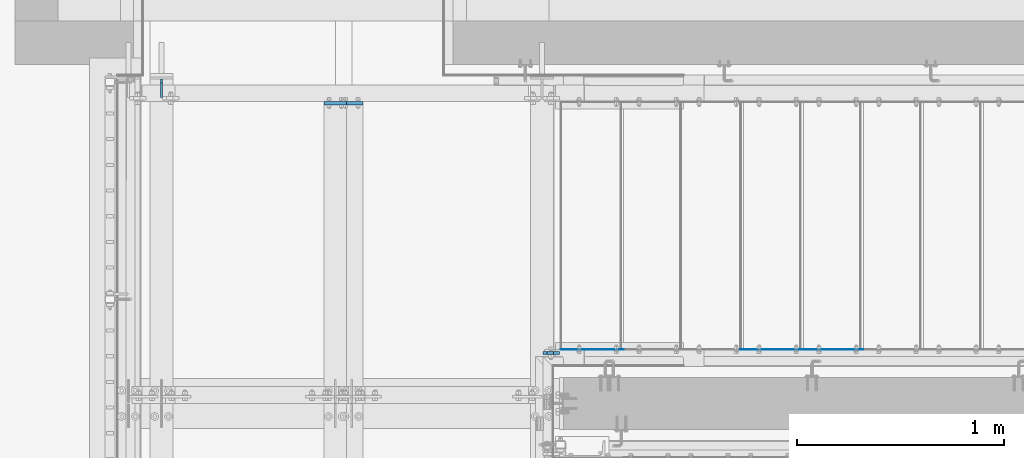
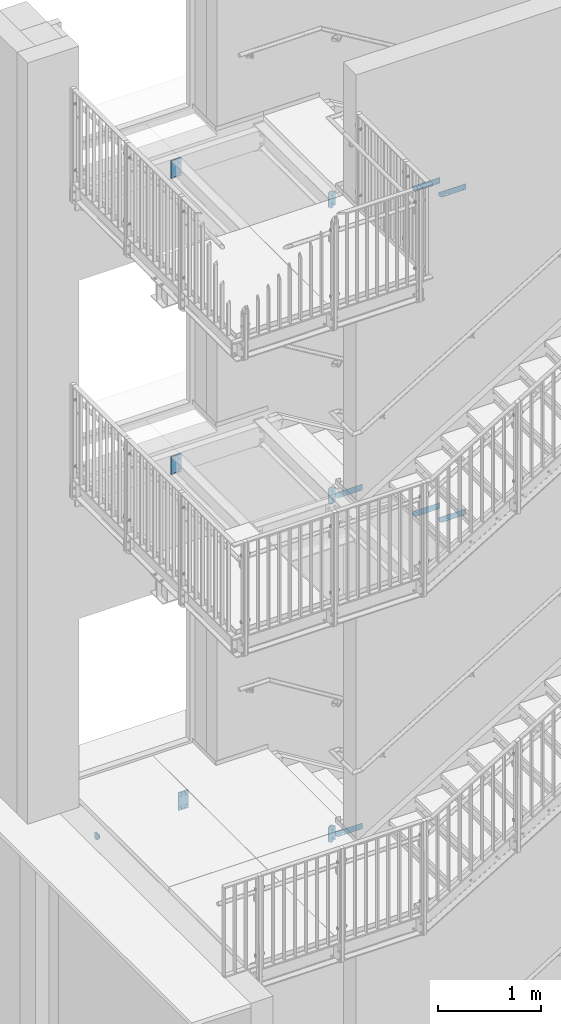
# One storey, part 56 of 410: 13 plates, 56 openings.
"""IFC2X3 building model written with IfcOpenShell, lengths in millimetres."""

from ifc_helpers import new_model, entity, si_unit, converted_unit, point, frame, frame_2d, origin, origin_with_axes, origin_2d_with_axis, place, context, project, spatial, polyline, circle_curve, line_curve, trimmed, segment, composite_curve, circle, outline, extrude, material, layer, layer_set, element, save


model = new_model("IFC2X3")

# Units and contexts
model_context = context("Model", 3, precision=1e-09, world=origin_with_axes())
ifc_project = project(units=[si_unit("LENGTHUNIT", "METRE", prefix="MILLI"), si_unit("AREAUNIT", "SQUARE_METRE"), si_unit("VOLUMEUNIT", "CUBIC_METRE"), converted_unit("PLANEANGLEUNIT", "DEGREE", entity("IfcPlaneAngleMeasure", 0.01745329), si_unit("PLANEANGLEUNIT", "RADIAN"), dimensions=[0, 0, 0, 0, 0, 0, 0])], contexts=[model_context])

# Site, building, storey
site_placement = place(None, origin_with_axes())
site = spatial("IfcSite", under=ifc_project, at=site_placement, Name="mKR Teilneubau & Sanierung BA1 - Ostfildern", CompositionType="ELEMENT")
building_placement = place(site_placement, origin_with_axes())
building = spatial("IfcBuilding", under=site, at=building_placement, Name="Struktur 1", CompositionType="ELEMENT")
storey_placement = place(building_placement, origin_with_axes())
storey = spatial("IfcBuildingStorey", under=building, at=storey_placement, Name="Default Storey", CompositionType="ELEMENT", Elevation=0.0)

# Plate, openings
ifc_material = material(Name="S235JR")
ifc_layer_1 = layer(ifc_material, 3.0)
ifc_layer_set_1 = layer_set([ifc_layer_1], Name="S235JR")
plate_1_placement = place(None, frame((-545.0, 17239.999999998, 7150.0), z_axis=(0.0, 1.0, 0.0), x_axis=(0.0, 0.0, -1.0)))
plate_1 = element("IfcPlate", 1, at=plate_1_placement, inside=storey, material=ifc_layer_set_1, Name="Grate_Step#2", ObjectType="Grate_Step#2", context=model_context, shape_type="SweptSolid", body=[
    extrude(outline(polyline([(0.0, 0.0), (70.0, 0.0), (70.0, 275.0), (40.0, 305.0), (0.0, 305.0), (0.0, 0.0)])), origin_with_axes(), (0.0, 0.0, 1.0), 3.0),
])
opening_1_placement = place(plate_1_placement, frame((55.0, 35.0, 3.5), z_axis=(0.0, 0.0, -1.0), x_axis=(0.0, 1.0, 0.0)))
element("IfcOpeningElement", 2, at=opening_1_placement, cuts=plate_1, ObjectType="Opening", context=model_context, shape_type="SweptSolid", body=[
    extrude(circle(Radius=7.001, at=origin_2d_with_axis()), origin(), (0.0, 0.0, 1.0), 4.0),
])
opening_2_placement = place(plate_1_placement, frame((55.0, 215.0, 3.5), z_axis=(0.0, 0.0, -1.0), x_axis=(0.0, 1.0, 0.0)))
element("IfcOpeningElement", 3, at=opening_2_placement, cuts=plate_1, ObjectType="Opening", context=model_context, shape_type="SweptSolid", body=[
    extrude(outline(composite_curve([segment(trimmed(line_curve((-9.5, -7.001), (1.0, 0.0), 19.0), [point((-9.5, -7.001))], [point((9.5, -7.001))], True, "CARTESIAN"), True, "CONTINUOUS"), segment(trimmed(circle_curve(frame_2d((9.5, 0.0), x_axis=(1.0, 0.0)), 7.001), [point((9.5, -7.001))], [point((9.5, 7.001))], True, "CARTESIAN"), True, "CONTINUOUS"), segment(trimmed(line_curve((9.5, 7.001), (-1.0, 0.0), 19.0), [point((9.5, 7.001))], [point((-9.5, 7.001))], True, "CARTESIAN"), True, "CONTINUOUS"), segment(trimmed(circle_curve(frame_2d((-9.5, 0.0), x_axis=(1.0, 0.0)), 7.001), [point((-9.5, 7.001))], [point((-9.5, -7.001))], True, "CARTESIAN"), True, "CONTINUOUS")], self_intersect=False)), origin(), (0.0, 0.0, 1.0), 4.0),
])

plate_2_placement = place(None, frame((-255.0, 17239.999999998, 6975.0), z_axis=(0.0, 1.0, 0.0), x_axis=(0.0, 0.0, -1.0)))
plate_2 = element("IfcPlate", 4, at=plate_2_placement, inside=storey, material=ifc_layer_set_1, Name="Grate_Step#2", ObjectType="Grate_Step#2", context=model_context, shape_type="SweptSolid", body=[
    extrude(outline(polyline([(0.0, 0.0), (70.0, 0.0), (70.0, 275.0), (40.0, 305.0), (0.0, 305.0), (0.0, 0.0)])), origin_with_axes(), (0.0, 0.0, 1.0), 3.0),
])
opening_3_placement = place(plate_2_placement, frame((55.0, 215.0, 3.5), z_axis=(0.0, 0.0, -1.0), x_axis=(0.0, 1.0, 0.0)))
element("IfcOpeningElement", 5, at=opening_3_placement, cuts=plate_2, ObjectType="Opening", context=model_context, shape_type="SweptSolid", body=[
    extrude(outline(composite_curve([segment(trimmed(line_curve((-9.5, -7.001), (1.0, 0.0), 19.0), [point((-9.5, -7.001))], [point((9.5, -7.001))], True, "CARTESIAN"), True, "CONTINUOUS"), segment(trimmed(circle_curve(frame_2d((9.5, 0.0), x_axis=(1.0, 0.0)), 7.001), [point((9.5, -7.001))], [point((9.5, 7.001))], True, "CARTESIAN"), True, "CONTINUOUS"), segment(trimmed(line_curve((9.5, 7.001), (-1.0, 0.0), 19.0), [point((9.5, 7.001))], [point((-9.5, 7.001))], True, "CARTESIAN"), True, "CONTINUOUS"), segment(trimmed(circle_curve(frame_2d((-9.5, 0.0), x_axis=(1.0, 0.0)), 7.001), [point((-9.5, 7.001))], [point((-9.5, -7.001))], True, "CARTESIAN"), True, "CONTINUOUS")], self_intersect=False)), origin(), (0.0, 0.0, 1.0), 4.0),
])
opening_4_placement = place(plate_2_placement, frame((55.0, 35.0, 3.5), z_axis=(0.0, 0.0, -1.0), x_axis=(0.0, 1.0, 0.0)))
element("IfcOpeningElement", 6, at=opening_4_placement, cuts=plate_2, ObjectType="Opening", context=model_context, shape_type="SweptSolid", body=[
    extrude(circle(Radius=7.001, at=origin_2d_with_axis()), origin(), (0.0, 0.0, 1.0), 4.0),
])

plate_3_placement = place(None, frame((-255.0, 17239.999999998, 3130.434783), z_axis=(0.0, 1.0, 0.0), x_axis=(0.0, 0.0, -1.0)))
plate_3 = element("IfcPlate", 7, at=plate_3_placement, inside=storey, material=ifc_layer_set_1, Name="Grate_Step#2", ObjectType="Grate_Step#2", context=model_context, shape_type="SweptSolid", body=[
    extrude(outline(polyline([(0.0, 0.0), (70.0, 0.0), (70.0, 275.0), (40.0, 305.0), (0.0, 305.0), (0.0, 0.0)])), origin_with_axes(), (0.0, 0.0, 1.0), 3.0),
])
opening_5_placement = place(plate_3_placement, frame((55.0, 35.0, 3.5), z_axis=(0.0, 0.0, -1.0), x_axis=(0.0, 1.0, 0.0)))
element("IfcOpeningElement", 8, at=opening_5_placement, cuts=plate_3, ObjectType="Opening", context=model_context, shape_type="SweptSolid", body=[
    extrude(circle(Radius=7.001, at=origin_2d_with_axis()), origin(), (0.0, 0.0, 1.0), 4.0),
])
opening_6_placement = place(plate_3_placement, frame((55.0, 215.0, 3.5), z_axis=(0.0, 0.0, -1.0), x_axis=(0.0, 1.0, 0.0)))
element("IfcOpeningElement", 9, at=opening_6_placement, cuts=plate_3, ObjectType="Opening", context=model_context, shape_type="SweptSolid", body=[
    extrude(outline(composite_curve([segment(trimmed(line_curve((-9.5, -7.001), (1.0, 0.0), 19.0), [point((-9.5, -7.001))], [point((9.5, -7.001))], True, "CARTESIAN"), True, "CONTINUOUS"), segment(trimmed(circle_curve(frame_2d((9.5, 0.0), x_axis=(1.0, 0.0)), 7.001), [point((9.5, -7.001))], [point((9.5, 7.001))], True, "CARTESIAN"), True, "CONTINUOUS"), segment(trimmed(line_curve((9.5, 7.001), (-1.0, 0.0), 19.0), [point((9.5, 7.001))], [point((-9.5, 7.001))], True, "CARTESIAN"), True, "CONTINUOUS"), segment(trimmed(circle_curve(frame_2d((-9.5, 0.0), x_axis=(1.0, 0.0)), 7.001), [point((-9.5, 7.001))], [point((-9.5, -7.001))], True, "CARTESIAN"), True, "CONTINUOUS")], self_intersect=False)), origin(), (0.0, 0.0, 1.0), 4.0),
])

plate_4_placement = place(None, frame((-545.0, 17239.999999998, 3304.3478265), z_axis=(0.0, 1.0, 0.0), x_axis=(0.0, 0.0, -1.0)))
plate_4 = element("IfcPlate", 10, at=plate_4_placement, inside=storey, material=ifc_layer_set_1, Name="Grate_Step#2", ObjectType="Grate_Step#2", context=model_context, shape_type="SweptSolid", body=[
    extrude(outline(polyline([(0.0, 0.0), (70.0, 0.0), (70.0, 275.0), (40.0, 305.0), (0.0, 305.0), (0.0, 0.0)])), origin_with_axes(), (0.0, 0.0, 1.0), 3.0),
])
opening_7_placement = place(plate_4_placement, frame((55.0, 35.0, 3.5), z_axis=(0.0, 0.0, -1.0), x_axis=(0.0, 1.0, 0.0)))
element("IfcOpeningElement", 11, at=opening_7_placement, cuts=plate_4, ObjectType="Opening", context=model_context, shape_type="SweptSolid", body=[
    extrude(circle(Radius=7.001, at=origin_2d_with_axis()), origin(), (0.0, 0.0, 1.0), 4.0),
])
opening_8_placement = place(plate_4_placement, frame((55.0, 215.0, 3.5), z_axis=(0.0, 0.0, -1.0), x_axis=(0.0, 1.0, 0.0)))
element("IfcOpeningElement", 12, at=opening_8_placement, cuts=plate_4, ObjectType="Opening", context=model_context, shape_type="SweptSolid", body=[
    extrude(outline(composite_curve([segment(trimmed(line_curve((-9.5, -7.001), (1.0, 0.0), 19.0), [point((-9.5, -7.001))], [point((9.5, -7.001))], True, "CARTESIAN"), True, "CONTINUOUS"), segment(trimmed(circle_curve(frame_2d((9.5, 0.0), x_axis=(1.0, 0.0)), 7.001), [point((9.5, -7.001))], [point((9.5, 7.001))], True, "CARTESIAN"), True, "CONTINUOUS"), segment(trimmed(line_curve((9.5, 7.001), (-1.0, 0.0), 19.0), [point((9.5, 7.001))], [point((-9.5, 7.001))], True, "CARTESIAN"), True, "CONTINUOUS"), segment(trimmed(circle_curve(frame_2d((-9.5, 0.0), x_axis=(1.0, 0.0)), 7.001), [point((-9.5, 7.001))], [point((-9.5, -7.001))], True, "CARTESIAN"), True, "CONTINUOUS")], self_intersect=False)), origin(), (0.0, 0.0, 1.0), 4.0),
])

plate_5_placement = place(None, frame((-1415.0, 17239.999999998, 3826.086957), z_axis=(0.0, 1.0, 0.0), x_axis=(0.0, 0.0, -1.0)))
plate_5 = element("IfcPlate", 13, at=plate_5_placement, inside=storey, material=ifc_layer_set_1, Name="Grate_Step#2", ObjectType="Grate_Step#2", context=model_context, shape_type="SweptSolid", body=[
    extrude(outline(polyline([(0.0, 0.0), (70.0, 0.0), (70.0, 275.0), (40.0, 305.0), (0.0, 305.0), (0.0, 0.0)])), origin_with_axes(), (0.0, 0.0, 1.0), 3.0),
])
opening_9_placement = place(plate_5_placement, frame((55.0, 215.0, 3.5), z_axis=(0.0, 0.0, -1.0), x_axis=(0.0, 1.0, 0.0)))
element("IfcOpeningElement", 14, at=opening_9_placement, cuts=plate_5, ObjectType="Opening", context=model_context, shape_type="SweptSolid", body=[
    extrude(outline(composite_curve([segment(trimmed(line_curve((-9.5, -7.001), (1.0, 0.0), 19.0), [point((-9.5, -7.001))], [point((9.5, -7.001))], True, "CARTESIAN"), True, "CONTINUOUS"), segment(trimmed(circle_curve(frame_2d((9.5, 0.0), x_axis=(1.0, 0.0)), 7.001), [point((9.5, -7.001))], [point((9.5, 7.001))], True, "CARTESIAN"), True, "CONTINUOUS"), segment(trimmed(line_curve((9.5, 7.001), (-1.0, 0.0), 19.0), [point((9.5, 7.001))], [point((-9.5, 7.001))], True, "CARTESIAN"), True, "CONTINUOUS"), segment(trimmed(circle_curve(frame_2d((-9.5, 0.0), x_axis=(1.0, 0.0)), 7.001), [point((-9.5, 7.001))], [point((-9.5, -7.001))], True, "CARTESIAN"), True, "CONTINUOUS")], self_intersect=False)), origin(), (0.0, 0.0, 1.0), 4.0),
])
opening_10_placement = place(plate_5_placement, frame((55.0, 35.0, 3.5), z_axis=(0.0, 0.0, -1.0), x_axis=(0.0, 1.0, 0.0)))
element("IfcOpeningElement", 15, at=opening_10_placement, cuts=plate_5, ObjectType="Opening", context=model_context, shape_type="SweptSolid", body=[
    extrude(circle(Radius=7.001, at=origin_2d_with_axis()), origin(), (0.0, 0.0, 1.0), 4.0),
])

plate_6_placement = place(None, frame((-1415.0, 17239.999999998, -178.8), z_axis=(0.0, 1.0, 0.0), x_axis=(0.0, 0.0, -1.0)))
plate_6 = element("IfcPlate", 16, at=plate_6_placement, inside=storey, material=ifc_layer_set_1, Name="Grate_Step#2", ObjectType="Grate_Step#2", context=model_context, shape_type="SweptSolid", body=[
    extrude(outline(polyline([(0.0, 0.0), (70.0, 0.0), (70.0, 275.0), (40.0, 305.0), (0.0, 305.0), (0.0, 0.0)])), origin_with_axes(), (0.0, 0.0, 1.0), 3.0),
])
opening_11_placement = place(plate_6_placement, frame((55.0, 215.0, 3.5), z_axis=(0.0, 0.0, -1.0), x_axis=(0.0, 1.0, 0.0)))
element("IfcOpeningElement", 17, at=opening_11_placement, cuts=plate_6, ObjectType="Opening", context=model_context, shape_type="SweptSolid", body=[
    extrude(outline(composite_curve([segment(trimmed(line_curve((-9.5, -7.001), (1.0, 0.0), 19.0), [point((-9.5, -7.001))], [point((9.5, -7.001))], True, "CARTESIAN"), True, "CONTINUOUS"), segment(trimmed(circle_curve(frame_2d((9.5, 0.0), x_axis=(1.0, 0.0)), 7.001), [point((9.5, -7.001))], [point((9.5, 7.001))], True, "CARTESIAN"), True, "CONTINUOUS"), segment(trimmed(line_curve((9.5, 7.001), (-1.0, 0.0), 19.0), [point((9.5, 7.001))], [point((-9.5, 7.001))], True, "CARTESIAN"), True, "CONTINUOUS"), segment(trimmed(circle_curve(frame_2d((-9.5, 0.0), x_axis=(1.0, 0.0)), 7.001), [point((-9.5, 7.001))], [point((-9.5, -7.001))], True, "CARTESIAN"), True, "CONTINUOUS")], self_intersect=False)), origin(), (0.0, 0.0, 1.0), 4.0),
])
opening_12_placement = place(plate_6_placement, frame((55.0, 35.0, 3.5), z_axis=(0.0, 0.0, -1.0), x_axis=(0.0, 1.0, 0.0)))
element("IfcOpeningElement", 18, at=opening_12_placement, cuts=plate_6, ObjectType="Opening", context=model_context, shape_type="SweptSolid", body=[
    extrude(circle(Radius=7.001, at=origin_2d_with_axis()), origin(), (0.0, 0.0, 1.0), 4.0),
])

ifc_layer_2 = layer(ifc_material, 15.0)
ifc_layer_set_2 = layer_set([ifc_layer_2], Name="S235JR")
plate_7_placement = place(None, frame((-1806.0485317, 17230.999999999, 3929.300000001), z_axis=(0.0, 1.0, 0.0), x_axis=(1.0, 0.0, 0.0)))
plate_7 = element("IfcPlate", 19, at=plate_7_placement, inside=storey, material=ifc_layer_set_2, Name="LugPlate#1", ObjectType="LugPlate#1", context=model_context, shape_type="SweptSolid", body=[
    extrude(outline(polyline([(0.0, 0.0), (80.0, 0.0), (80.0, 198.6), (0.0, 198.6), (0.0, 0.0)])), origin_with_axes(), (0.0, 0.0, -1.0), 15.0),
])
opening_13_placement = place(plate_7_placement, frame((0.0, 0.0, 0.01), z_axis=(0.0, 0.0, 1.0), x_axis=(1.0, 0.0, 0.0)))
element("IfcOpeningElement", 20, at=opening_13_placement, cuts=plate_7, ObjectType="Opening", context=model_context, shape_type="SweptSolid", body=[
    extrude(outline(polyline([(0.0, 0.0), (20.0, 0.0), (0.0, 20.0), (0.0, 0.0)])), origin(), (0.0, 0.0, -1.0), 15.02),
])
opening_14_placement = place(plate_7_placement, frame((0.0, 198.6, 0.01), z_axis=(0.0, 0.0, 1.0), x_axis=(0.0, -1.0, 0.0)))
element("IfcOpeningElement", 21, at=opening_14_placement, cuts=plate_7, ObjectType="Opening", context=model_context, shape_type="SweptSolid", body=[
    extrude(outline(polyline([(0.0, 0.0), (20.0, 0.0), (0.0, 20.0), (0.0, 0.0)])), origin(), (0.0, 0.0, -1.0), 15.02),
])
opening_15_placement = place(plate_7_placement, frame((99.857709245, 209.301, -15.1), z_axis=(0.0, 0.0, -1.0), x_axis=(0.0, -1.0, 0.0)))
element("IfcOpeningElement", 22, at=opening_15_placement, cuts=plate_7, ObjectType="Opening", context=model_context, shape_type="SweptSolid", body=[
    extrude(outline(polyline([(0.0, 0.0), (30.002, 0.0), (30.002, 48.808709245), (0.0, 48.808709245), (0.0, 0.0)])), origin(), (0.0, 0.0, -1.0), 15.2),
])
opening_16_placement = place(plate_7_placement, frame((95.314579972, 19.301, -15.1), z_axis=(0.0, 0.0, -1.0), x_axis=(0.0, -1.0, 0.0)))
element("IfcOpeningElement", 23, at=opening_16_placement, cuts=plate_7, ObjectType="Opening", context=model_context, shape_type="SweptSolid", body=[
    extrude(outline(polyline([(0.0, 0.0), (30.001999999, 0.0), (30.001999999, 44.265579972), (0.0, 44.265579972), (0.0, 0.0)])), origin(), (0.0, 0.0, -1.0), 15.2),
])
opening_17_placement = place(plate_7_placement, frame((40.0, 49.300000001, -15.5), z_axis=(0.0, 0.0, 1.0), x_axis=(1.0, 0.0, 0.0)))
element("IfcOpeningElement", 24, at=opening_17_placement, cuts=plate_7, ObjectType="Opening", context=model_context, shape_type="SweptSolid", body=[
    extrude(circle(Radius=9.001, at=frame_2d((0.0, 100.0), x_axis=(1.0, 0.0))), origin(), (0.0, 0.0, 1.0), 16.0),
])
opening_18_placement = place(plate_7_placement, frame((40.0, 49.300000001, -15.5), z_axis=(0.0, 0.0, 1.0), x_axis=(1.0, 0.0, 0.0)))
element("IfcOpeningElement", 25, at=opening_18_placement, cuts=plate_7, ObjectType="Opening", context=model_context, shape_type="SweptSolid", body=[
    extrude(circle(Radius=9.001, at=origin_2d_with_axis()), origin(), (0.0, 0.0, 1.0), 16.0),
])

plate_8_placement = place(None, frame((-1806.0485317, 17230.999999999, -70.699999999), z_axis=(0.0, 1.0, 0.0), x_axis=(1.0, 0.0, 0.0)))
plate_8 = element("IfcPlate", 26, at=plate_8_placement, inside=storey, material=ifc_layer_set_2, Name="LugPlate#1", ObjectType="LugPlate#1", context=model_context, shape_type="SweptSolid", body=[
    extrude(outline(polyline([(0.0, 0.0), (80.0, 0.0), (80.0, 198.6), (0.0, 198.6), (0.0, 0.0)])), origin_with_axes(), (0.0, 0.0, -1.0), 15.0),
])
opening_19_placement = place(plate_8_placement, frame((0.0, 0.0, 0.01), z_axis=(0.0, 0.0, 1.0), x_axis=(1.0, 0.0, 0.0)))
element("IfcOpeningElement", 27, at=opening_19_placement, cuts=plate_8, ObjectType="Opening", context=model_context, shape_type="SweptSolid", body=[
    extrude(outline(polyline([(0.0, 0.0), (20.0, 0.0), (0.0, 20.0), (0.0, 0.0)])), origin(), (0.0, 0.0, -1.0), 15.02),
])
opening_20_placement = place(plate_8_placement, frame((0.0, 198.6, 0.01), z_axis=(0.0, 0.0, 1.0), x_axis=(0.0, -1.0, 0.0)))
element("IfcOpeningElement", 28, at=opening_20_placement, cuts=plate_8, ObjectType="Opening", context=model_context, shape_type="SweptSolid", body=[
    extrude(outline(polyline([(0.0, 0.0), (20.0, 0.0), (0.0, 20.0), (0.0, 0.0)])), origin(), (0.0, 0.0, -1.0), 15.02),
])
opening_21_placement = place(plate_8_placement, frame((99.857709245, 209.301, -15.1), z_axis=(0.0, 0.0, -1.0), x_axis=(0.0, -1.0, 0.0)))
element("IfcOpeningElement", 29, at=opening_21_placement, cuts=plate_8, ObjectType="Opening", context=model_context, shape_type="SweptSolid", body=[
    extrude(outline(polyline([(0.0, 0.0), (30.002, 0.0), (30.002, 48.808709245), (0.0, 48.808709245), (0.0, 0.0)])), origin(), (0.0, 0.0, -1.0), 15.2),
])
opening_22_placement = place(plate_8_placement, frame((95.314579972, 19.301, -15.1), z_axis=(0.0, 0.0, -1.0), x_axis=(0.0, -1.0, 0.0)))
element("IfcOpeningElement", 30, at=opening_22_placement, cuts=plate_8, ObjectType="Opening", context=model_context, shape_type="SweptSolid", body=[
    extrude(outline(polyline([(0.0, 0.0), (30.001999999, 0.0), (30.001999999, 44.265579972), (0.0, 44.265579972), (0.0, 0.0)])), origin(), (0.0, 0.0, -1.0), 15.2),
])
opening_23_placement = place(plate_8_placement, frame((40.0, 49.300000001, -15.5), z_axis=(0.0, 0.0, 1.0), x_axis=(1.0, 0.0, 0.0)))
element("IfcOpeningElement", 31, at=opening_23_placement, cuts=plate_8, ObjectType="Opening", context=model_context, shape_type="SweptSolid", body=[
    extrude(circle(Radius=9.001, at=frame_2d((0.0, 100.0), x_axis=(1.0, 0.0))), origin(), (0.0, 0.0, 1.0), 16.0),
])
opening_24_placement = place(plate_8_placement, frame((40.0, 49.300000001, -15.5), z_axis=(0.0, 0.0, 1.0), x_axis=(1.0, 0.0, 0.0)))
element("IfcOpeningElement", 32, at=opening_24_placement, cuts=plate_8, ObjectType="Opening", context=model_context, shape_type="SweptSolid", body=[
    extrude(circle(Radius=9.001, at=origin_2d_with_axis()), origin(), (0.0, 0.0, 1.0), 16.0),
])

plate_9_placement = place(None, frame((-1806.0485317, 17230.999999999, 7429.300000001), z_axis=(0.0, 1.0, 0.0), x_axis=(1.0, 0.0, 0.0)))
plate_9 = element("IfcPlate", 33, at=plate_9_placement, inside=storey, material=ifc_layer_set_2, Name="LugPlate#1", ObjectType="LugPlate#1", context=model_context, shape_type="SweptSolid", body=[
    extrude(outline(polyline([(0.0, 0.0), (80.0, 0.0), (80.0, 198.6), (0.0, 198.6), (0.0, 0.0)])), origin_with_axes(), (0.0, 0.0, -1.0), 15.0),
])
opening_25_placement = place(plate_9_placement, frame((0.0, 0.0, 0.01), z_axis=(0.0, 0.0, 1.0), x_axis=(1.0, 0.0, 0.0)))
element("IfcOpeningElement", 34, at=opening_25_placement, cuts=plate_9, ObjectType="Opening", context=model_context, shape_type="SweptSolid", body=[
    extrude(outline(polyline([(0.0, 0.0), (20.0, 0.0), (0.0, 20.0), (0.0, 0.0)])), origin(), (0.0, 0.0, -1.0), 15.02),
])
opening_26_placement = place(plate_9_placement, frame((0.0, 198.6, 0.01), z_axis=(0.0, 0.0, 1.0), x_axis=(0.0, -1.0, 0.0)))
element("IfcOpeningElement", 35, at=opening_26_placement, cuts=plate_9, ObjectType="Opening", context=model_context, shape_type="SweptSolid", body=[
    extrude(outline(polyline([(0.0, 0.0), (20.0, 0.0), (0.0, 20.0), (0.0, 0.0)])), origin(), (0.0, 0.0, -1.0), 15.02),
])
opening_27_placement = place(plate_9_placement, frame((99.857709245, 209.301, -15.1), z_axis=(0.0, 0.0, -1.0), x_axis=(0.0, -1.0, 0.0)))
element("IfcOpeningElement", 36, at=opening_27_placement, cuts=plate_9, ObjectType="Opening", context=model_context, shape_type="SweptSolid", body=[
    extrude(outline(polyline([(0.0, 0.0), (30.002, 0.0), (30.002, 48.808709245), (0.0, 48.808709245), (0.0, 0.0)])), origin(), (0.0, 0.0, -1.0), 15.2),
])
opening_28_placement = place(plate_9_placement, frame((95.314579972, 19.301, -15.1), z_axis=(0.0, 0.0, -1.0), x_axis=(0.0, -1.0, 0.0)))
element("IfcOpeningElement", 37, at=opening_28_placement, cuts=plate_9, ObjectType="Opening", context=model_context, shape_type="SweptSolid", body=[
    extrude(outline(polyline([(0.0, 0.0), (30.001999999, 0.0), (30.001999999, 44.265579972), (0.0, 44.265579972), (0.0, 0.0)])), origin(), (0.0, 0.0, -1.0), 15.2),
])
opening_29_placement = place(plate_9_placement, frame((40.0, 49.300000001, -15.5), z_axis=(0.0, 0.0, 1.0), x_axis=(1.0, 0.0, 0.0)))
element("IfcOpeningElement", 38, at=opening_29_placement, cuts=plate_9, ObjectType="Opening", context=model_context, shape_type="SweptSolid", body=[
    extrude(circle(Radius=9.001, at=frame_2d((0.0, 100.0), x_axis=(1.0, 0.0))), origin(), (0.0, 0.0, 1.0), 16.0),
])
opening_30_placement = place(plate_9_placement, frame((40.0, 49.300000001, -15.5), z_axis=(0.0, 0.0, 1.0), x_axis=(1.0, 0.0, 0.0)))
element("IfcOpeningElement", 39, at=opening_30_placement, cuts=plate_9, ObjectType="Opening", context=model_context, shape_type="SweptSolid", body=[
    extrude(circle(Radius=9.001, at=origin_2d_with_axis()), origin(), (0.0, 0.0, 1.0), 16.0),
])

plate_10_placement = place(None, frame((-2809.9985317, 18424.999999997, 7330.0), z_axis=(0.0, -1.0, 0.0), x_axis=(1.0, 0.0, 0.0)))
plate_10 = element("IfcPlate", 40, at=plate_10_placement, inside=storey, material=ifc_layer_set_2, Name="-", ObjectType="-", context=model_context, shape_type="SweptSolid", body=[
    extrude(outline(polyline([(-55.0, -105.0), (55.0, -105.0), (55.0, 105.0), (-55.0, 105.0), (-55.0, -105.0)])), origin_with_axes(), (0.0, 0.0, -1.0), 15.0),
])
opening_31_placement = place(plate_10_placement, frame((22.999000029, 60.000000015, 0.5), z_axis=(0.0, 0.0, 1.0), x_axis=(1.0, 0.0, 0.0)))
element("IfcOpeningElement", 41, at=opening_31_placement, cuts=plate_10, ObjectType="Opening", context=model_context, shape_type="SweptSolid", body=[
    extrude(circle(Radius=7.001, at=frame_2d((7.001, 0.0), x_axis=(1.0, 0.0))), origin(), (0.0, 0.0, -1.0), 16.0),
])
opening_32_placement = place(plate_10_placement, frame((-37.000999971, 60.000000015, 0.5), z_axis=(0.0, 0.0, 1.0), x_axis=(1.0, 0.0, 0.0)))
element("IfcOpeningElement", 42, at=opening_32_placement, cuts=plate_10, ObjectType="Opening", context=model_context, shape_type="SweptSolid", body=[
    extrude(circle(Radius=7.001, at=frame_2d((7.001, 0.0), x_axis=(1.0, 0.0))), origin(), (0.0, 0.0, -1.0), 16.0),
])
opening_33_placement = place(plate_10_placement, frame((22.999000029, -59.999999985, 0.5), z_axis=(0.0, 0.0, 1.0), x_axis=(1.0, 0.0, 0.0)))
element("IfcOpeningElement", 43, at=opening_33_placement, cuts=plate_10, ObjectType="Opening", context=model_context, shape_type="SweptSolid", body=[
    extrude(circle(Radius=7.001, at=frame_2d((7.001, 0.0), x_axis=(1.0, 0.0))), origin(), (0.0, 0.0, -1.0), 16.0),
])
opening_34_placement = place(plate_10_placement, frame((-37.000999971, -59.999999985, 0.5), z_axis=(0.0, 0.0, 1.0), x_axis=(1.0, 0.0, 0.0)))
element("IfcOpeningElement", 44, at=opening_34_placement, cuts=plate_10, ObjectType="Opening", context=model_context, shape_type="SweptSolid", body=[
    extrude(circle(Radius=7.001, at=frame_2d((7.001, 0.0), x_axis=(1.0, 0.0))), origin(), (0.0, 0.0, -1.0), 16.0),
])
opening_35_placement = place(plate_10_placement, frame((14.95, 88.8, -15.5), z_axis=(0.0, 0.0, 1.0), x_axis=(0.0, -1.0, 0.0)))
element("IfcOpeningElement", 45, at=opening_35_placement, cuts=plate_10, ObjectType="Opening", context=model_context, shape_type="SweptSolid", body=[
    extrude(circle(Radius=6.001, at=origin_2d_with_axis()), origin(), (0.0, 0.0, 1.0), 16.0),
])
opening_36_placement = place(plate_10_placement, frame((14.95, -88.8, -15.5), z_axis=(0.0, 0.0, 1.0), x_axis=(0.0, -1.0, 0.0)))
element("IfcOpeningElement", 46, at=opening_36_placement, cuts=plate_10, ObjectType="Opening", context=model_context, shape_type="SweptSolid", body=[
    extrude(circle(Radius=6.001, at=origin_2d_with_axis()), origin(), (0.0, 0.0, 1.0), 16.0),
])
opening_37_placement = place(plate_10_placement, frame((-14.95, -88.8, -15.5), z_axis=(0.0, 0.0, 1.0), x_axis=(0.0, -1.0, 0.0)))
element("IfcOpeningElement", 47, at=opening_37_placement, cuts=plate_10, ObjectType="Opening", context=model_context, shape_type="SweptSolid", body=[
    extrude(circle(Radius=6.001, at=origin_2d_with_axis()), origin(), (0.0, 0.0, 1.0), 16.0),
])
opening_38_placement = place(plate_10_placement, frame((-14.95, 88.8, -15.5), z_axis=(0.0, 0.0, 1.0), x_axis=(0.0, -1.0, 0.0)))
element("IfcOpeningElement", 48, at=opening_38_placement, cuts=plate_10, ObjectType="Opening", context=model_context, shape_type="SweptSolid", body=[
    extrude(circle(Radius=6.001, at=origin_2d_with_axis()), origin(), (0.0, 0.0, 1.0), 16.0),
])

plate_11_placement = place(None, frame((-2809.9985317, 18424.999999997, 3830.0), z_axis=(0.0, -1.0, 0.0), x_axis=(1.0, 0.0, 0.0)))
plate_11 = element("IfcPlate", 49, at=plate_11_placement, inside=storey, material=ifc_layer_set_2, Name="-", ObjectType="-", context=model_context, shape_type="SweptSolid", body=[
    extrude(outline(polyline([(-55.0, -105.0), (55.0, -105.0), (55.0, 105.0), (-55.0, 105.0), (-55.0, -105.0)])), origin_with_axes(), (0.0, 0.0, -1.0), 15.0),
])
opening_39_placement = place(plate_11_placement, frame((22.999000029, 60.000000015, 0.5), z_axis=(0.0, 0.0, 1.0), x_axis=(1.0, 0.0, 0.0)))
element("IfcOpeningElement", 50, at=opening_39_placement, cuts=plate_11, ObjectType="Opening", context=model_context, shape_type="SweptSolid", body=[
    extrude(circle(Radius=7.001, at=frame_2d((7.001, 0.0), x_axis=(1.0, 0.0))), origin(), (0.0, 0.0, -1.0), 16.0),
])
opening_40_placement = place(plate_11_placement, frame((-37.000999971, 60.000000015, 0.5), z_axis=(0.0, 0.0, 1.0), x_axis=(1.0, 0.0, 0.0)))
element("IfcOpeningElement", 51, at=opening_40_placement, cuts=plate_11, ObjectType="Opening", context=model_context, shape_type="SweptSolid", body=[
    extrude(circle(Radius=7.001, at=frame_2d((7.001, 0.0), x_axis=(1.0, 0.0))), origin(), (0.0, 0.0, -1.0), 16.0),
])
opening_41_placement = place(plate_11_placement, frame((22.999000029, -59.999999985, 0.5), z_axis=(0.0, 0.0, 1.0), x_axis=(1.0, 0.0, 0.0)))
element("IfcOpeningElement", 52, at=opening_41_placement, cuts=plate_11, ObjectType="Opening", context=model_context, shape_type="SweptSolid", body=[
    extrude(circle(Radius=7.001, at=frame_2d((7.001, 0.0), x_axis=(1.0, 0.0))), origin(), (0.0, 0.0, -1.0), 16.0),
])
opening_42_placement = place(plate_11_placement, frame((-37.000999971, -59.999999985, 0.5), z_axis=(0.0, 0.0, 1.0), x_axis=(1.0, 0.0, 0.0)))
element("IfcOpeningElement", 53, at=opening_42_placement, cuts=plate_11, ObjectType="Opening", context=model_context, shape_type="SweptSolid", body=[
    extrude(circle(Radius=7.001, at=frame_2d((7.001, 0.0), x_axis=(1.0, 0.0))), origin(), (0.0, 0.0, -1.0), 16.0),
])
opening_43_placement = place(plate_11_placement, frame((14.95, 88.8, -15.5), z_axis=(0.0, 0.0, 1.0), x_axis=(0.0, -1.0, 0.0)))
element("IfcOpeningElement", 54, at=opening_43_placement, cuts=plate_11, ObjectType="Opening", context=model_context, shape_type="SweptSolid", body=[
    extrude(circle(Radius=6.001, at=origin_2d_with_axis()), origin(), (0.0, 0.0, 1.0), 16.0),
])
opening_44_placement = place(plate_11_placement, frame((14.95, -88.8, -15.5), z_axis=(0.0, 0.0, 1.0), x_axis=(0.0, -1.0, 0.0)))
element("IfcOpeningElement", 55, at=opening_44_placement, cuts=plate_11, ObjectType="Opening", context=model_context, shape_type="SweptSolid", body=[
    extrude(circle(Radius=6.001, at=origin_2d_with_axis()), origin(), (0.0, 0.0, 1.0), 16.0),
])
opening_45_placement = place(plate_11_placement, frame((-14.95, -88.8, -15.5), z_axis=(0.0, 0.0, 1.0), x_axis=(0.0, -1.0, 0.0)))
element("IfcOpeningElement", 56, at=opening_45_placement, cuts=plate_11, ObjectType="Opening", context=model_context, shape_type="SweptSolid", body=[
    extrude(circle(Radius=6.001, at=origin_2d_with_axis()), origin(), (0.0, 0.0, 1.0), 16.0),
])
opening_46_placement = place(plate_11_placement, frame((-14.95, 88.8, -15.5), z_axis=(0.0, 0.0, 1.0), x_axis=(0.0, -1.0, 0.0)))
element("IfcOpeningElement", 57, at=opening_46_placement, cuts=plate_11, ObjectType="Opening", context=model_context, shape_type="SweptSolid", body=[
    extrude(circle(Radius=6.001, at=origin_2d_with_axis()), origin(), (0.0, 0.0, 1.0), 16.0),
])

plate_12_placement = place(None, frame((-2729.9985317, 18424.999999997, -170.0), z_axis=(0.0, -1.0, 0.0), x_axis=(1.0, 0.0, 0.0)))
plate_12 = element("IfcPlate", 58, at=plate_12_placement, inside=storey, material=ifc_layer_set_2, Name="-", ObjectType="-", context=model_context, shape_type="SweptSolid", body=[
    extrude(outline(polyline([(-55.0, -105.0), (55.0, -105.0), (55.0, 105.0), (-55.0, 105.0), (-55.0, -105.0)])), origin_with_axes(), (0.0, 0.0, -1.0), 15.0),
])
opening_47_placement = place(plate_12_placement, frame((22.999000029, 60.000000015, 0.5), z_axis=(0.0, 0.0, 1.0), x_axis=(1.0, 0.0, 0.0)))
element("IfcOpeningElement", 59, at=opening_47_placement, cuts=plate_12, ObjectType="Opening", context=model_context, shape_type="SweptSolid", body=[
    extrude(circle(Radius=7.001, at=frame_2d((7.001, 0.0), x_axis=(1.0, 0.0))), origin(), (0.0, 0.0, -1.0), 16.0),
])
opening_48_placement = place(plate_12_placement, frame((-37.000999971, 60.000000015, 0.5), z_axis=(0.0, 0.0, 1.0), x_axis=(1.0, 0.0, 0.0)))
element("IfcOpeningElement", 60, at=opening_48_placement, cuts=plate_12, ObjectType="Opening", context=model_context, shape_type="SweptSolid", body=[
    extrude(circle(Radius=7.001, at=frame_2d((7.001, 0.0), x_axis=(1.0, 0.0))), origin(), (0.0, 0.0, -1.0), 16.0),
])
opening_49_placement = place(plate_12_placement, frame((22.999000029, -59.999999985, 0.5), z_axis=(0.0, 0.0, 1.0), x_axis=(1.0, 0.0, 0.0)))
element("IfcOpeningElement", 61, at=opening_49_placement, cuts=plate_12, ObjectType="Opening", context=model_context, shape_type="SweptSolid", body=[
    extrude(circle(Radius=7.001, at=frame_2d((7.001, 0.0), x_axis=(1.0, 0.0))), origin(), (0.0, 0.0, -1.0), 16.0),
])
opening_50_placement = place(plate_12_placement, frame((-37.000999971, -59.999999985, 0.5), z_axis=(0.0, 0.0, 1.0), x_axis=(1.0, 0.0, 0.0)))
element("IfcOpeningElement", 62, at=opening_50_placement, cuts=plate_12, ObjectType="Opening", context=model_context, shape_type="SweptSolid", body=[
    extrude(circle(Radius=7.001, at=frame_2d((7.001, 0.0), x_axis=(1.0, 0.0))), origin(), (0.0, 0.0, -1.0), 16.0),
])
opening_51_placement = place(plate_12_placement, frame((14.95, 88.8, -15.5), z_axis=(0.0, 0.0, 1.0), x_axis=(0.0, -1.0, 0.0)))
element("IfcOpeningElement", 63, at=opening_51_placement, cuts=plate_12, ObjectType="Opening", context=model_context, shape_type="SweptSolid", body=[
    extrude(circle(Radius=6.001, at=origin_2d_with_axis()), origin(), (0.0, 0.0, 1.0), 16.0),
])
opening_52_placement = place(plate_12_placement, frame((14.95, -88.8, -15.5), z_axis=(0.0, 0.0, 1.0), x_axis=(0.0, -1.0, 0.0)))
element("IfcOpeningElement", 64, at=opening_52_placement, cuts=plate_12, ObjectType="Opening", context=model_context, shape_type="SweptSolid", body=[
    extrude(circle(Radius=6.001, at=origin_2d_with_axis()), origin(), (0.0, 0.0, 1.0), 16.0),
])
opening_53_placement = place(plate_12_placement, frame((-14.95, -88.8, -15.5), z_axis=(0.0, 0.0, 1.0), x_axis=(0.0, -1.0, 0.0)))
element("IfcOpeningElement", 65, at=opening_53_placement, cuts=plate_12, ObjectType="Opening", context=model_context, shape_type="SweptSolid", body=[
    extrude(circle(Radius=6.001, at=origin_2d_with_axis()), origin(), (0.0, 0.0, 1.0), 16.0),
])
opening_54_placement = place(plate_12_placement, frame((-14.95, 88.8, -15.5), z_axis=(0.0, 0.0, 1.0), x_axis=(0.0, -1.0, 0.0)))
element("IfcOpeningElement", 66, at=opening_54_placement, cuts=plate_12, ObjectType="Opening", context=model_context, shape_type="SweptSolid", body=[
    extrude(circle(Radius=6.001, at=origin_2d_with_axis()), origin(), (0.0, 0.0, 1.0), 16.0),
])

ifc_layer_3 = layer(ifc_material, 10.0)
ifc_layer_set_3 = layer_set([ifc_layer_3], Name="S235JR")
plate_13_placement = place(None, frame((-3654.9985317, 18504.99935555, -325.0), z_axis=(1.0, 0.0, 0.0), x_axis=(0.0, 1.0, 0.0)))
plate_13 = element("IfcPlate", 67, at=plate_13_placement, inside=storey, material=ifc_layer_set_3, Name="-", ObjectType="-", context=model_context, shape_type="SweptSolid", body=[
    extrude(outline(polyline([(-45.0, -45.0), (45.0, -45.0), (45.0, 45.0), (-45.0, 45.0), (-45.0, -45.0)])), origin_with_axes(), (0.0, 0.0, 1.0), 10.0),
])
opening_55_placement = place(plate_13_placement, frame((0.0, 0.0, -0.01), z_axis=(0.0, 0.0, 1.0), x_axis=(1.0, 0.0, 0.0)))
element("IfcOpeningElement", 68, at=opening_55_placement, cuts=plate_13, ObjectType="Opening", context=model_context, shape_type="SweptSolid", body=[
    extrude(outline(polyline([(-45.0, -45.0), (5.0, -45.0), (-45.0, 5.0), (-45.0, -45.0)])), origin(), (0.0, 0.0, 1.0), 10.02),
])
opening_56_placement = place(plate_13_placement, frame((0.0, 0.0, -0.01), z_axis=(0.0, 0.0, 1.0), x_axis=(1.0, 0.0, 0.0)))
element("IfcOpeningElement", 69, at=opening_56_placement, cuts=plate_13, ObjectType="Opening", context=model_context, shape_type="SweptSolid", body=[
    extrude(outline(polyline([(45.0, 45.0), (25.0, 45.0), (45.0, 25.0), (45.0, 45.0)])), origin(), (0.0, 0.0, 1.0), 10.02),
])

save(model, "model.ifc")
